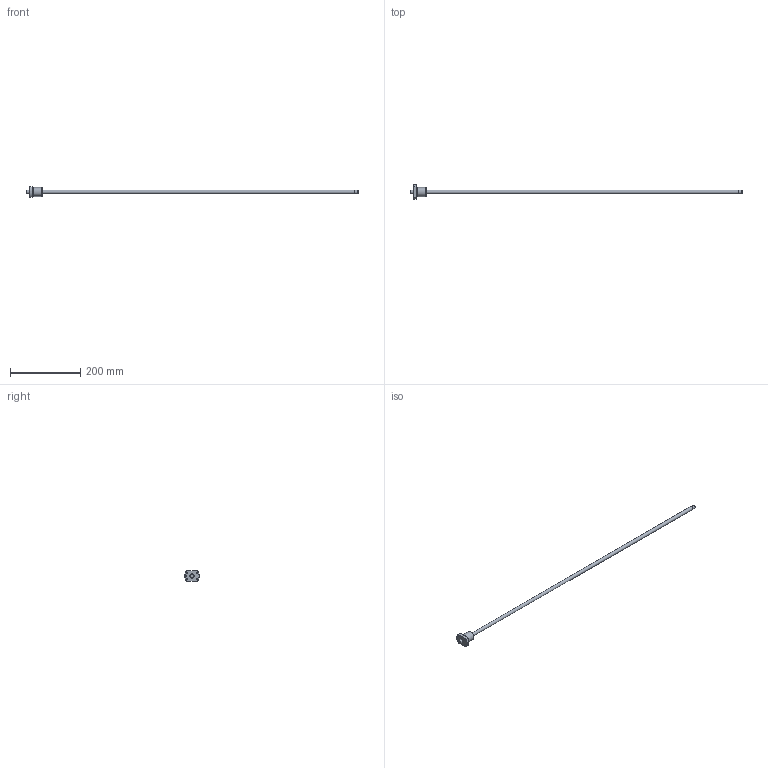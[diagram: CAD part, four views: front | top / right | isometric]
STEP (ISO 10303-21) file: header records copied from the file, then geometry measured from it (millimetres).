
FILE_DESCRIPTION( ( 'STEP AP203' ), ' ' );
FILE_NAME( 'p:/temp/worker_16/3916_4020/app_43_12018011810363077042476818fa3fd_000000_00_00_000000/format_0/BTK 1006V-2.6ZZ+945LT_8890.stp', '2018-01-18T09:36:31', ( '' ), ( '' ), ' ', 'PARTsolutions', ' ' );
FILE_SCHEMA( ( 'CONFIG_CONTROL_DESIGN' ) );
Length unit declared in the file: millimetre
Products named in the file (3): BTK 1006V-2.6ZZ+945LT_8890; _BTK 1006V-2.6889 Shaft; _BTK 1006V-2.6ZZ Nut
Assembly tree (2 placements, depth 2):
  BTK 1006V-2.6ZZ+945LT_8890
    _BTK 1006V-2.6889 Shaft
    _BTK 1006V-2.6ZZ Nut
Bounding box: 945 x 41.92 x 29 mm (x, y, z)
Volume: 93810.9 mm3; surface area: 37071.9 mm2
Topology: 2 solids, 2 shells, 43 faces, 92 edges, 60 vertices
Faces by surface type: cylinder 20, plane 16, cone 7
Full cylindrical faces by diameter (mm): 3 x3, 4.5 x4, 8 x2, 10 x4, 12 x2, 23.4 x1, 26 x1
Entity records: 1252 total; most frequent: CARTESIAN_POINT 289, DIRECTION 190, ORIENTED_EDGE 132, AXIS2_PLACEMENT_3D 90, EDGE_LOOP 81, EDGE_CURVE 66, FACE_OUTER_BOUND 59, VERTEX_POINT 55
